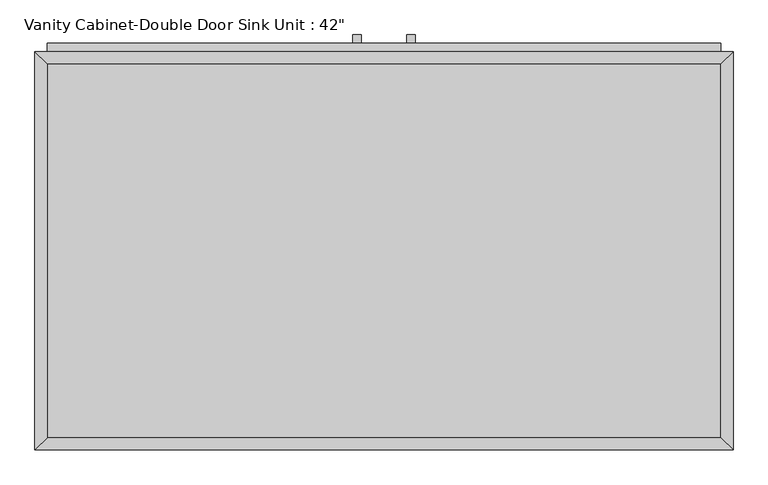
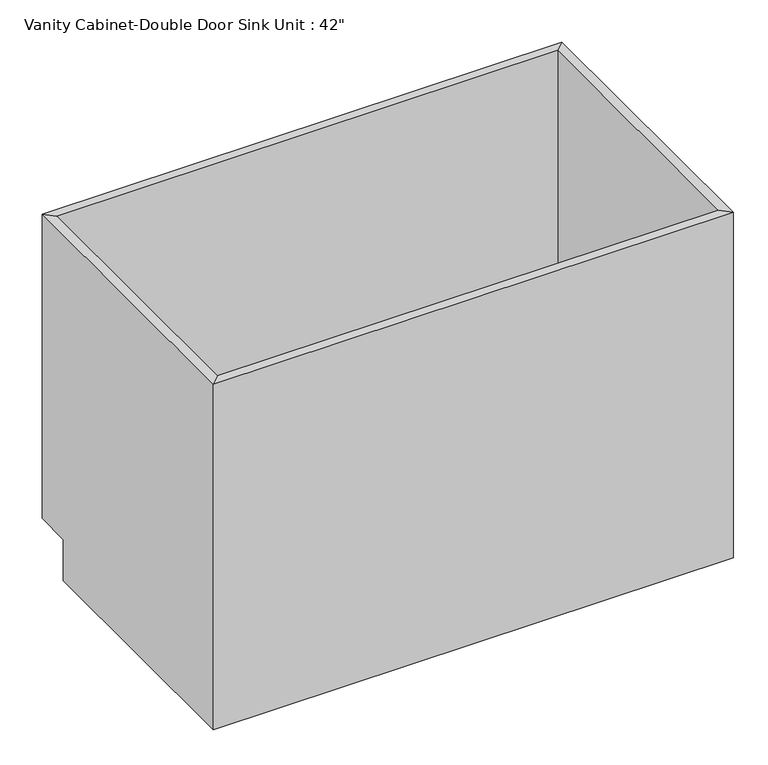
"""IFC4 building model written with IfcOpenShell, lengths in millimetres: furniture geometry."""

from ifc_helpers import new_model, si_unit, frame, origin, place, context, project, spatial, polyline, outline, extrude, faceted_brep, source, transform, mapped, element, save


def furniture_fa9c5d5b(model_context):
    return source(origin(), model_context, "Body", "SolidModel", [
        faceted_brep([(533.0877049, 590.55, 749.3), (-495.6122951, 590.55, 749.3), (-495.6122951, 590.55, 88.9), (533.0877049, 590.55, 88.9), (552.1377049, 609.6, 749.3), (-514.6622951, 609.6, 749.3), (552.1377049, 609.6, 88.9), (-514.6622951, 609.6, 88.9), (-495.6122951, 19.05, 749.3), (-495.6122951, 19.05, 88.9), (-495.6122951, 533.4, 88.9), (-514.6622951, 0.0, 749.3), (-514.6622951, 533.4, 88.9), (-514.6622951, 533.4, 0.0), (-514.6622951, 0.0, 0.0), (533.0877049, 19.05, 749.3), (533.0877049, 19.05, 88.9), (552.1377049, 0.0, 749.3), (552.1377049, 0.0, 0.0), (533.0877049, 533.4, 88.9), (552.1377049, 533.4, 0.0), (552.1377049, 533.4, 88.9)], [[[0, 1, 2, 3]], [[0, 4, 5, 1]], [[4, 6, 7, 5]], [[2, 7, 6, 3]], [[1, 8, 9, 10, 2]], [[5, 11, 8, 1]], [[7, 12, 13, 14, 11, 5]], [[2, 10, 12, 7]], [[8, 15, 16, 9]], [[11, 17, 15, 8]], [[14, 18, 17, 11]], [[3, 19, 16, 15, 0]], [[0, 15, 17, 4]], [[4, 17, 18, 20, 21, 6]], [[6, 21, 19, 3]], [[10, 9, 16, 19]], [[18, 14, 13, 20]], [[13, 12, 10, 19, 21, 20]]]),
        extrude(outline(polyline([(-16.1872951, 635.0), (-16.1872951, 622.3), (-28.8872951, 622.3), (-28.8872951, 635.0), (-16.1872951, 635.0)])), frame((0.0, 0.0, 446.769895), z_axis=(0.0, 0.0, 1.0), x_axis=(1.0, 0.0, 0.0)), (0.0, 0.0, 1.0), 124.730105),
        extrude(outline(polyline([(66.3627049, 635.0), (66.3627049, 622.3), (53.6627049, 622.3), (53.6627049, 635.0), (66.3627049, 635.0)])), frame((0.0, 0.0, 446.769895), z_axis=(0.0, 0.0, 1.0), x_axis=(1.0, 0.0, 0.0)), (0.0, 0.0, 1.0), 124.730105),
        extrude(outline(polyline([(533.0877049, 19.05), (-495.6122951, 19.05), (-495.6122951, 590.55), (533.0877049, 590.55), (533.0877049, 19.05)])), frame((0.0, 0.0, 88.9), z_axis=(0.0, 0.0, 1.0), x_axis=(1.0, 0.0, 0.0)), (0.0, 0.0, 1.0), 19.05),
        extrude(outline(polyline([(9.2127049, 622.3), (9.2127049, 609.6), (-495.6122951, 609.6), (-495.6122951, 622.3), (9.2127049, 622.3)])), frame((0.0, 0.0, 107.95), z_axis=(0.0, 0.0, 1.0), x_axis=(1.0, 0.0, 0.0)), (0.0, 0.0, 1.0), 501.65),
        extrude(outline(polyline([(533.0877049, 622.3), (533.0877049, 609.6), (28.2627049, 609.6), (28.2627049, 622.3), (533.0877049, 622.3)])), frame((0.0, 0.0, 107.95), z_axis=(0.0, 0.0, 1.0), x_axis=(1.0, 0.0, 0.0)), (0.0, 0.0, 1.0), 501.65),
        extrude(outline(polyline([(533.0877049, 622.3), (533.0877049, 609.6), (-495.6122951, 609.6), (-495.6122951, 622.3), (533.0877049, 622.3)])), frame((0.0, 0.0, 628.65), z_axis=(0.0, 0.0, 1.0), x_axis=(1.0, 0.0, 0.0)), (0.0, 0.0, 1.0), 101.6),
    ])


if __name__ == "__main__":
    model = new_model("IFC4")
    model_context = context("Model", 3, world=origin())
    ifc_project = project(units=[si_unit("LENGTHUNIT", "METRE", prefix="MILLI")], contexts=[model_context])
    site = spatial("IfcSite", under=ifc_project)
    building = spatial("IfcBuilding", under=site)
    placement = place(None, origin())
    furniture_shape = furniture_fa9c5d5b(model_context)
    element("IfcFurniture", 1, ObjectType="Vanity Cabinet-Double Door Sink Unit : 42\"", at=placement, inside=building, context=model_context, shape_type="MappedRepresentation", body=[
        mapped(furniture_shape, transform((0.0, 0.0, 0.0), x_axis=(1.0, 0.0, 0.0), y_axis=(0.0, 1.0, 0.0), z_axis=(0.0, 0.0, 1.0))),
    ])
    save(model, "model.ifc")
